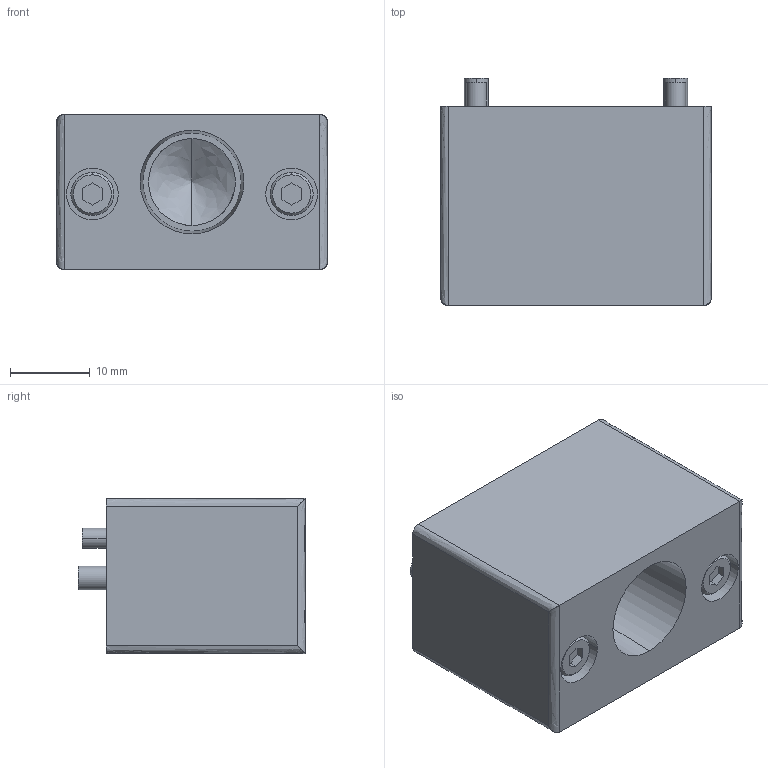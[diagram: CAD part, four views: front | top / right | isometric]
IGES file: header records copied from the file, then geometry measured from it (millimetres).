
Start section: 3D InterOp IGES (v. 2022 1.0.0), Spatial Corp. Copyright (c) 1999-2020.
Global section: file name: KHF-12RS-EP81_ver1.igs; native system: Spatial Corp.; preprocessor: 3D InterOp GENERIC/IGES 3.0; author: Noname; organization: Noname; date: 20260427.092240; units: millimetre
Bounding box: 34 x 28.5 x 19.5 mm (x, y, z)
Surface area: 5975.5 mm2 (no closed solid volume)
Topology: 0 solids, 0 shells, 81 faces, 352 edges, 350 vertices
Faces by surface type: revolution 46, extrusion 35
